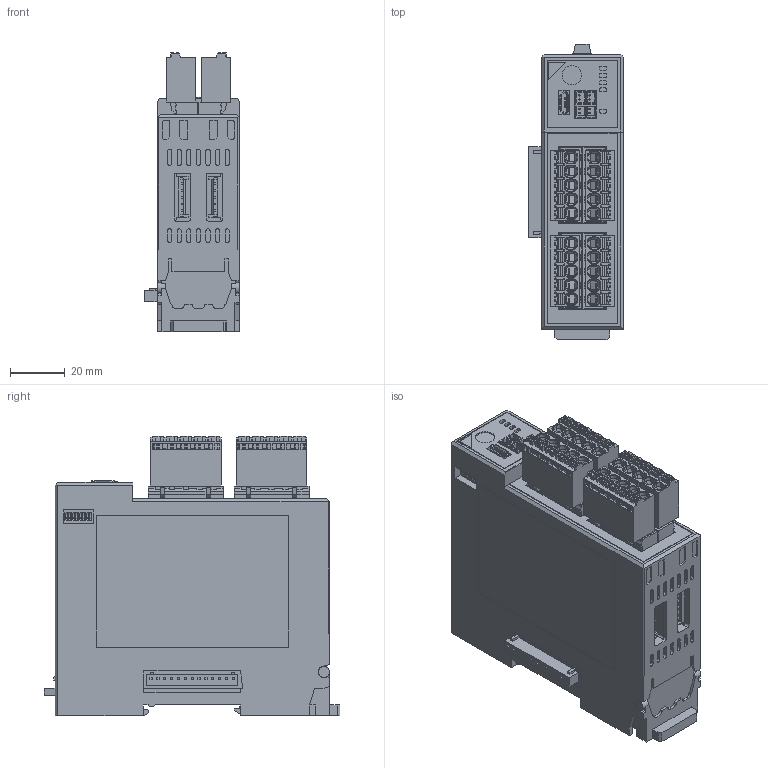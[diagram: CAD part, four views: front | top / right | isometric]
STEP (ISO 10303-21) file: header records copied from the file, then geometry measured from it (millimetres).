
FILE_DESCRIPTION (( 'STEP AP203' ), '1' );
FILE_NAME ('QTC1-R_HP_260603.STEP', '2026-06-03T08:05:15', ( '' ), ( '' ), 'SwSTEP 2.0', 'SolidWorks 2025', '' );
FILE_SCHEMA (( 'CONFIG_CONTROL_DESIGN' ));
Products named in the file (3): QTC1-R_HP_260603; DINKLE_2ess-05P_260603
Assembly tree (5 placements, depth 2):
  QTC1-R_HP_260603
    QTC1-R_HP_260603
    DINKLE_2ess-05P_260603  x4
Bounding box: 34.5 x 107.85 x 102 mm (x, y, z)
Volume: 246168.7 mm3; surface area: 54264.7 mm2
Topology: 5 solids, 20 shells, 5732 faces, 14320 edges, 8844 vertices
Faces by surface type: plane 3137, cylinder 1761, bspline 288, torus 228, sphere 208, cone 110
Entity records: 95230 total; most frequent: CARTESIAN_POINT 23974, ORIENTED_EDGE 15004, DIRECTION 14250, EDGE_CURVE 7502, LINE 5650, VECTOR 5650, VERTEX_POINT 4797, AXIS2_PLACEMENT_3D 4300
